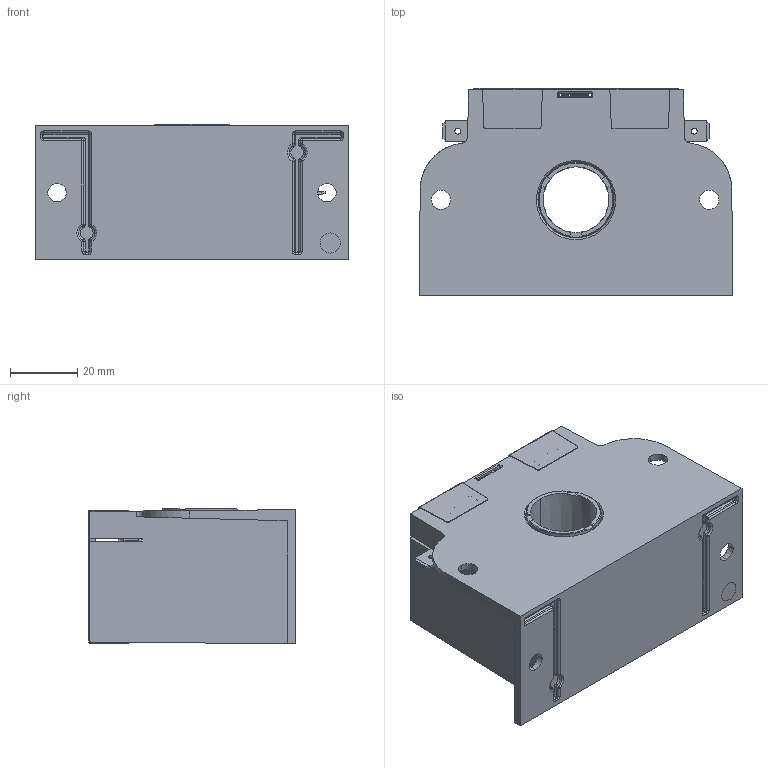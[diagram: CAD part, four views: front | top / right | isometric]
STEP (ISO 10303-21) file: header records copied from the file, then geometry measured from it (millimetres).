
FILE_DESCRIPTION (( 'STEP AP214' ), '1' );
FILE_NAME ('1211500002_DC200IF.STEP', '2020-08-18T14:25:11', ( '' ), ( '' ), 'SwSTEP 2.0', 'SolidWorks 2019', '' );
FILE_SCHEMA (( 'AUTOMOTIVE_DESIGN' ));
Length unit declared in the file: millimetre
Products named in the file (1): 1211500002_DC200IF
Bounding box: 93.5 x 61.7 x 40.44 mm (x, y, z)
Surface area: 37937.1 mm2 (no closed solid volume)
Topology: 0 solids, 12 shells, 369 faces, 1264 edges, 898 vertices
Faces by surface type: plane 179, cylinder 78, bspline 50, cone 31, sphere 20, torus 11
Entity records: 22198 total; most frequent: CARTESIAN_POINT 7815, ORIENTED_EDGE 2080, DIRECTION 1961, EDGE_CURVE 1263, VERTEX_POINT 898, VECTOR 777, LINE 777, AXIS2_PLACEMENT_3D 592
